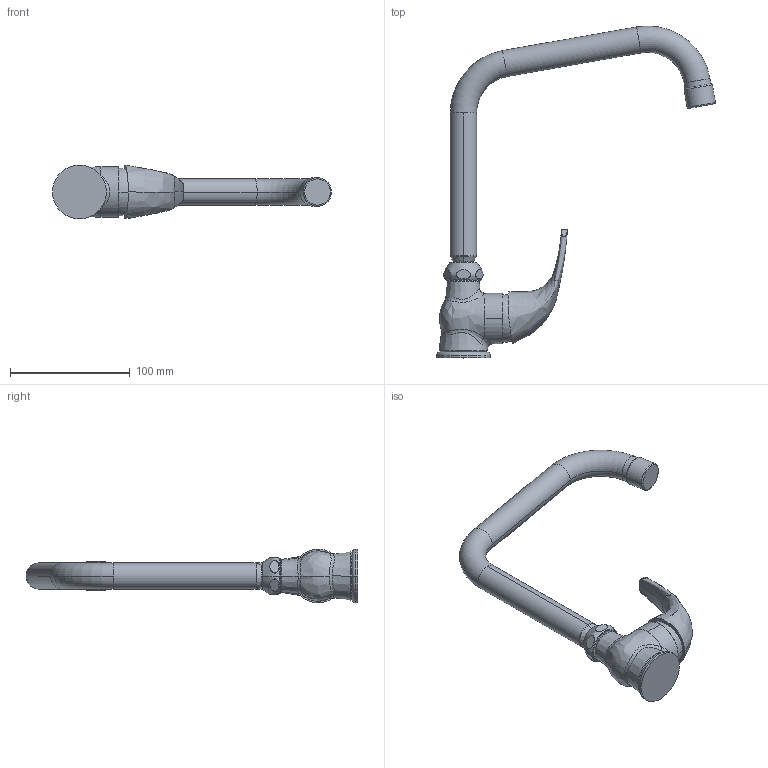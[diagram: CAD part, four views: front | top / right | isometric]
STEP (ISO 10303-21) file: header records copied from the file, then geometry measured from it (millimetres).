
FILE_DESCRIPTION (( 'STEP AP214' ), '1' );
FILE_NAME ('69CR594ZKM.STEP', '2020-04-10T07:15:00', ( '' ), ( '' ), 'SwSTEP 2.0', 'SolidWorks 2017', '' );
FILE_SCHEMA (( 'AUTOMOTIVE_DESIGN' ));
Length unit declared in the file: millimetre
Products named in the file (1): 69CR594ZKM
Bounding box: 233.16 x 277.49 x 45 mm (x, y, z)
Volume: 312542.5 mm3; surface area: 51425.9 mm2
Topology: 2 solids, 2 shells, 90 faces, 209 edges, 124 vertices
Faces by surface type: bspline 28, torus 20, cylinder 16, plane 14, cone 10, sphere 2
Entity records: 9012 total; most frequent: CARTESIAN_POINT 7152, ORIENTED_EDGE 398, DIRECTION 349, EDGE_CURVE 199, AXIS2_PLACEMENT_3D 161, VERTEX_POINT 122, EDGE_LOOP 99, CIRCLE 98
